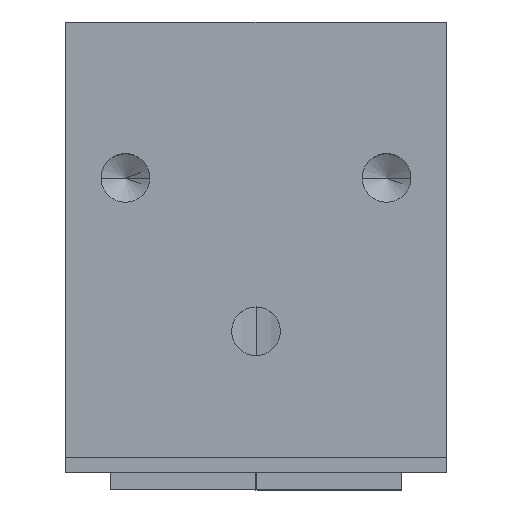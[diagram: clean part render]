
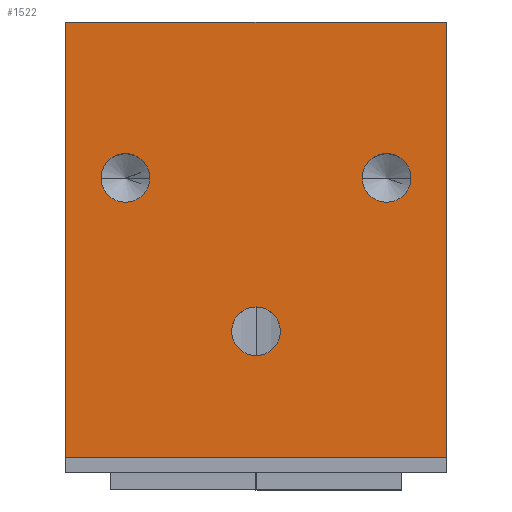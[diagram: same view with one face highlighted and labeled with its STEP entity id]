
A CAD part, top view. The second image highlights one B-rep face of the part: STEP entity #1522.
In plain terms, the highlighted planar face has unit normal (0, 0, 1).
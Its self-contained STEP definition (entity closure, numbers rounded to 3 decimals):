
#11 = VERTEX_POINT ( 'NONE', #2671 ) ;
#95 = CARTESIAN_POINT ( 'NONE',  ( 0., -4.699, 8.001 ) ) ;
#112 = CARTESIAN_POINT ( 'NONE',  ( -6.706, 3.175, 8.001 ) ) ;
#123 = VERTEX_POINT ( 'NONE', #1356 ) ;
#269 = VECTOR ( 'NONE', #912, 1000. ) ;
#353 = CARTESIAN_POINT ( 'NONE',  ( 9.754, 11.176, 8.001 ) ) ;
#371 = DIRECTION ( 'NONE',  ( 1., 0., 0. ) ) ;
#381 = DIRECTION ( 'NONE',  ( 1., 0., 0. ) ) ;
#402 = FACE_BOUND ( 'NONE', #1600, .T. ) ;
#406 = CARTESIAN_POINT ( 'NONE',  ( 9.754, 11.176, 8.001 ) ) ;
#477 = CIRCLE ( 'NONE', #858, 1.25 ) ;
#478 = FACE_BOUND ( 'NONE', #2754, .T. ) ;
#501 = VERTEX_POINT ( 'NONE', #2139 ) ;
#502 = EDGE_CURVE ( 'NONE', #11, #1219, #477, .T. ) ;
#528 = ORIENTED_EDGE ( 'NONE', *, *, #2560, .F. ) ;
#601 = PLANE ( 'NONE',  #2955 ) ;
#622 = DIRECTION ( 'NONE',  ( 0., 0., 1. ) ) ;
#648 = EDGE_LOOP ( 'NONE', ( #678, #2629, #1401, #2702 ) ) ;
#666 = LINE ( 'NONE', #1799, #745 ) ;
#678 = ORIENTED_EDGE ( 'NONE', *, *, #2379, .T. ) ;
#733 = CARTESIAN_POINT ( 'NONE',  ( 9.754, -11.176, 8.001 ) ) ;
#745 = VECTOR ( 'NONE', #2789, 1000. ) ;
#816 = CARTESIAN_POINT ( 'NONE',  ( -9.754, 11.176, 8.001 ) ) ;
#858 = AXIS2_PLACEMENT_3D ( 'NONE', #3211, #2510, #1587 ) ;
#869 = VECTOR ( 'NONE', #1629, 1000. ) ;
#893 = VERTEX_POINT ( 'NONE', #816 ) ;
#912 = DIRECTION ( 'NONE',  ( 0., -1., 0. ) ) ;
#938 = DIRECTION ( 'NONE',  ( 0., 0., 1. ) ) ;
#956 = VERTEX_POINT ( 'NONE', #733 ) ;
#1023 = CARTESIAN_POINT ( 'NONE',  ( 7.956, 3.175, 8.001 ) ) ;
#1024 = LINE ( 'NONE', #3126, #2270 ) ;
#1065 = FACE_OUTER_BOUND ( 'NONE', #648, .T. ) ;
#1069 = VERTEX_POINT ( 'NONE', #353 ) ;
#1102 = DIRECTION ( 'NONE',  ( -1., 0., 0. ) ) ;
#1132 = CARTESIAN_POINT ( 'NONE',  ( 6.706, 3.175, 8.001 ) ) ;
#1144 = DIRECTION ( 'NONE',  ( 1., 0., 0. ) ) ;
#1170 = CIRCLE ( 'NONE', #1777, 1.25 ) ;
#1185 = CARTESIAN_POINT ( 'NONE',  ( 1.25, -4.699, 8.001 ) ) ;
#1219 = VERTEX_POINT ( 'NONE', #1023 ) ;
#1256 = ORIENTED_EDGE ( 'NONE', *, *, #2337, .F. ) ;
#1331 = CARTESIAN_POINT ( 'NONE',  ( -9.754, 11.176, 8.001 ) ) ;
#1356 = CARTESIAN_POINT ( 'NONE',  ( -7.956, 3.175, 8.001 ) ) ;
#1367 = DIRECTION ( 'NONE',  ( 1., 0., 0. ) ) ;
#1401 = ORIENTED_EDGE ( 'NONE', *, *, #2406, .F. ) ;
#1522 = ADVANCED_FACE ( 'NONE', ( #478, #1687, #402, #1065 ), #601, .F. ) ;
#1587 = DIRECTION ( 'NONE',  ( 1., 0., 0. ) ) ;
#1592 = CARTESIAN_POINT ( 'NONE',  ( -1.25, -4.699, 8.001 ) ) ;
#1596 = VERTEX_POINT ( 'NONE', #1592 ) ;
#1600 = EDGE_LOOP ( 'NONE', ( #1256, #1878 ) ) ;
#1620 = CARTESIAN_POINT ( 'NONE',  ( -9.754, 11.176, 8.001 ) ) ;
#1629 = DIRECTION ( 'NONE',  ( 1., 0., 0. ) ) ;
#1674 = AXIS2_PLACEMENT_3D ( 'NONE', #2361, #938, #2631 ) ;
#1680 = CIRCLE ( 'NONE', #1674, 1.25 ) ;
#1687 = FACE_BOUND ( 'NONE', #2909, .T. ) ;
#1699 = AXIS2_PLACEMENT_3D ( 'NONE', #2050, #622, #2298 ) ;
#1777 = AXIS2_PLACEMENT_3D ( 'NONE', #1132, #2840, #1367 ) ;
#1799 = CARTESIAN_POINT ( 'NONE',  ( -9.754, 11.176, 8.001 ) ) ;
#1801 = DIRECTION ( 'NONE',  ( 0., 0., -1. ) ) ;
#1805 = ORIENTED_EDGE ( 'NONE', *, *, #2307, .F. ) ;
#1818 = DIRECTION ( 'NONE',  ( 0., 0., 1. ) ) ;
#1825 = DIRECTION ( 'NONE',  ( 0., 0., 1. ) ) ;
#1840 = VERTEX_POINT ( 'NONE', #1185 ) ;
#1878 = ORIENTED_EDGE ( 'NONE', *, *, #502, .F. ) ;
#1911 = VERTEX_POINT ( 'NONE', #2137 ) ;
#2050 = CARTESIAN_POINT ( 'NONE',  ( -6.706, 3.175, 8.001 ) ) ;
#2074 = AXIS2_PLACEMENT_3D ( 'NONE', #95, #1818, #371 ) ;
#2137 = CARTESIAN_POINT ( 'NONE',  ( -5.456, 3.175, 8.001 ) ) ;
#2139 = CARTESIAN_POINT ( 'NONE',  ( -9.754, -11.176, 8.001 ) ) ;
#2187 = LINE ( 'NONE', #406, #269 ) ;
#2221 = EDGE_CURVE ( 'NONE', #893, #501, #666, .T. ) ;
#2248 = AXIS2_PLACEMENT_3D ( 'NONE', #112, #1825, #381 ) ;
#2270 = VECTOR ( 'NONE', #1144, 1000. ) ;
#2282 = EDGE_CURVE ( 'NONE', #1840, #1596, #2539, .T. ) ;
#2289 = ORIENTED_EDGE ( 'NONE', *, *, #2282, .F. ) ;
#2298 = DIRECTION ( 'NONE',  ( 1., 0., 0. ) ) ;
#2307 = EDGE_CURVE ( 'NONE', #1911, #123, #2448, .T. ) ;
#2337 = EDGE_CURVE ( 'NONE', #1219, #11, #1170, .T. ) ;
#2361 = CARTESIAN_POINT ( 'NONE',  ( 0., -4.699, 8.001 ) ) ;
#2379 = EDGE_CURVE ( 'NONE', #501, #956, #1024, .T. ) ;
#2398 = EDGE_CURVE ( 'NONE', #1069, #956, #2187, .T. ) ;
#2406 = EDGE_CURVE ( 'NONE', #893, #1069, #2896, .T. ) ;
#2443 = EDGE_CURVE ( 'NONE', #123, #1911, #2651, .T. ) ;
#2448 = CIRCLE ( 'NONE', #2248, 1.25 ) ;
#2468 = ORIENTED_EDGE ( 'NONE', *, *, #2443, .F. ) ;
#2510 = DIRECTION ( 'NONE',  ( 0., 0., 1. ) ) ;
#2539 = CIRCLE ( 'NONE', #2074, 1.25 ) ;
#2560 = EDGE_CURVE ( 'NONE', #1596, #1840, #1680, .T. ) ;
#2629 = ORIENTED_EDGE ( 'NONE', *, *, #2398, .F. ) ;
#2631 = DIRECTION ( 'NONE',  ( 1., 0., 0. ) ) ;
#2651 = CIRCLE ( 'NONE', #1699, 1.25 ) ;
#2671 = CARTESIAN_POINT ( 'NONE',  ( 5.456, 3.175, 8.001 ) ) ;
#2702 = ORIENTED_EDGE ( 'NONE', *, *, #2221, .T. ) ;
#2754 = EDGE_LOOP ( 'NONE', ( #2289, #528 ) ) ;
#2789 = DIRECTION ( 'NONE',  ( 0., -1., 0. ) ) ;
#2840 = DIRECTION ( 'NONE',  ( 0., 0., 1. ) ) ;
#2896 = LINE ( 'NONE', #1620, #869 ) ;
#2909 = EDGE_LOOP ( 'NONE', ( #1805, #2468 ) ) ;
#2955 = AXIS2_PLACEMENT_3D ( 'NONE', #1331, #1801, #1102 ) ;
#3126 = CARTESIAN_POINT ( 'NONE',  ( -9.754, -11.176, 8.001 ) ) ;
#3211 = CARTESIAN_POINT ( 'NONE',  ( 6.706, 3.175, 8.001 ) ) ;
